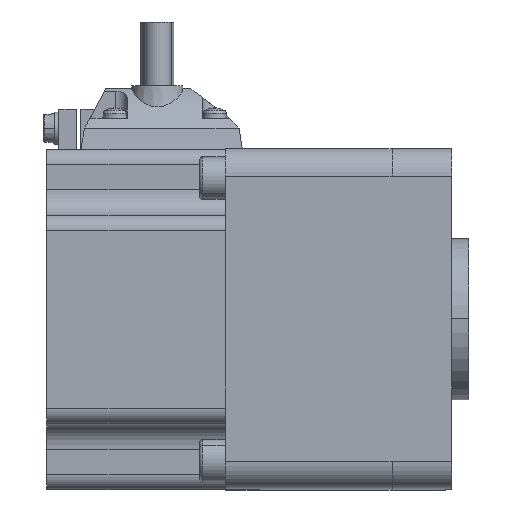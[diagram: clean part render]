
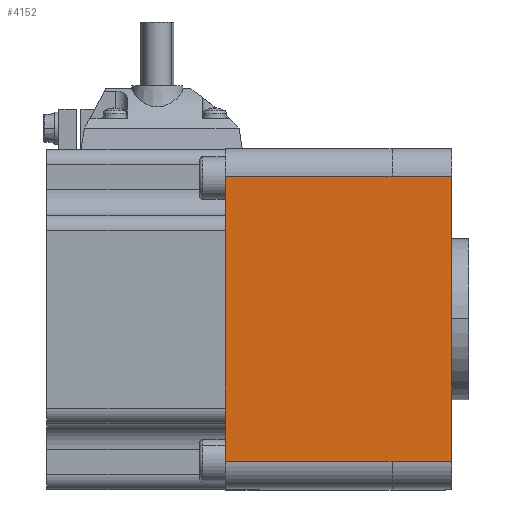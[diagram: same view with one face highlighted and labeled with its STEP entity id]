
A CAD part, top view. The second image highlights one B-rep face of the part: STEP entity #4152.
In plain terms, the highlighted planar face has unit normal (0, 0, 1).
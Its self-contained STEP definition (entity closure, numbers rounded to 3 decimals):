
#1537=CARTESIAN_POINT('POINT191033',(-18.,33.5,40.));
#1538=VERTEX_POINT('VERTEX191033',#1537);
#1539=CARTESIAN_POINT('POINT191034',(-4.,33.5,40.));
#1540=VERTEX_POINT('VERTEX191034',#1539);
#1541=CARTESIAN_POINT('POS322294',(-18.,33.5,40.));
#1542=DIRECTION('DIR465751',(1.,0.,0.));
#1543=VECTOR('VEC178837',#1542,1.);
#1544=LINE('STRAIGHT178837',#1541,#1543);
#1545=EDGE_CURVE('EDGE296111',#1538,#1540,#1544,.T.);
#1578=CARTESIAN_POINT('POINT191035',(-4.,-33.5,40.));
#1579=VERTEX_POINT('VERTEX191035',#1578);
#1580=CARTESIAN_POINT('POS322298',(-4.,-33.5,40.));
#1581=DIRECTION('DIR465758',(0.,1.,0.));
#1582=VECTOR('VEC178838',#1581,1.);
#1583=LINE('STRAIGHT178838',#1580,#1582);
#1584=EDGE_CURVE('EDGE296114',#1579,#1540,#1583,.T.);
#1682=CARTESIAN_POINT('POINT191048',(-18.,-33.5,40.));
#1683=VERTEX_POINT('VERTEX191048',#1682);
#1684=CARTESIAN_POINT('POS322305',(-18.,-33.5,40.));
#1685=DIRECTION('DIR465771',(1.,0.,0.));
#1686=VECTOR('VEC178839',#1685,1.);
#1687=LINE('STRAIGHT178839',#1684,#1686);
#1688=EDGE_CURVE('EDGE296128',#1683,#1579,#1687,.T.);
#1705=CARTESIAN_POINT('POINT191049',(-18.,-33.495,40.));
#1706=VERTEX_POINT('VERTEX191049',#1705);
#1758=CARTESIAN_POINT('POINT191056',(-18.,33.495,40.));
#1759=VERTEX_POINT('VERTEX191056',#1758);
#1767=CARTESIAN_POINT('POS322315',(-18.,-33.5,40.));
#1768=DIRECTION('DIR465787',(0.,1.,0.));
#1769=VECTOR('VEC178843',#1768,1.);
#1770=LINE('STRAIGHT178843',#1767,#1769);
#1771=EDGE_CURVE('EDGE296137',#1759,#1538,#1770,.T.);
#1780=EDGE_CURVE('EDGE296138',#1683,#1706,#1770,.T.);
#3365=CARTESIAN_POINT('POINT191143',(-18.01,33.495,40.));
#3366=VERTEX_POINT('VERTEX191143',#3365);
#3376=CARTESIAN_POINT('POS322424',(-18.,33.495,40.));
#3377=DIRECTION('DIR465938',(-1.,0.,0.));
#3378=VECTOR('VEC178910',#3377,1.);
#3379=LINE('STRAIGHT178910',#3376,#3378);
#3380=EDGE_CURVE('EDGE296278',#1759,#3366,#3379,.T.);
#3399=CARTESIAN_POINT('POINT191146',(-18.01,-33.495,40.))
   ;
#3400=VERTEX_POINT('VERTEX191146',#3399);
#3415=CARTESIAN_POINT('POS322429',(-18.,-33.495,40.));
#3416=DIRECTION('DIR465945',(-1.,0.,0.));
#3417=VECTOR('VEC178913',#3416,1.);
#3418=LINE('STRAIGHT178913',#3415,#3417);
#3419=EDGE_CURVE('EDGE296282',#1706,#3400,#3418,.T.);
#4104=CARTESIAN_POINT('POINT191175',(-18.01,33.5,40.));
#4105=VERTEX_POINT('VERTEX191175',#4104);
#4106=CARTESIAN_POINT('POS322509',(-18.01,33.5,40.));
#4107=DIRECTION('DIR466069',(0.,-1.,0.));
#4108=VECTOR('VEC178949',#4107,1.);
#4109=LINE('STRAIGHT178949',#4106,#4108);
#4110=EDGE_CURVE('EDGE296340',#4105,#3366,#4109,.T.);
#4111=ORIENTED_EDGE('COEDGE592693',*,*,#4110,.F.);
#4112=CARTESIAN_POINT('POINT191176',(-57.2,33.5,40.));
#4113=VERTEX_POINT('VERTEX191176',#4112);
#4114=CARTESIAN_POINT('POS322510',(-18.01,33.5,40.));
#4115=DIRECTION('DIR466070',(-1.,0.,0.));
#4116=VECTOR('VEC178950',#4115,1.);
#4117=LINE('STRAIGHT178950',#4114,#4116);
#4118=EDGE_CURVE('EDGE296341',#4105,#4113,#4117,.T.);
#4119=ORIENTED_EDGE('COEDGE592694',*,*,#4118,.T.);
#4120=CARTESIAN_POINT('POINT191177',(-57.2,-33.5,40.));
#4121=VERTEX_POINT('VERTEX191177',#4120);
#4122=CARTESIAN_POINT('POS322511',(-57.2,33.5,40.));
#4123=DIRECTION('DIR466071',(0.,-1.,0.));
#4124=VECTOR('VEC178951',#4123,1.);
#4125=LINE('STRAIGHT178951',#4122,#4124);
#4126=EDGE_CURVE('EDGE296342',#4113,#4121,#4125,.T.);
#4127=ORIENTED_EDGE('COEDGE592695',*,*,#4126,.T.);
#4128=CARTESIAN_POINT('POINT191178',(-18.01,-33.5,40.));
#4129=VERTEX_POINT('VERTEX191178',#4128);
#4130=CARTESIAN_POINT('POS322512',(-18.01,-33.5,40.));
#4131=DIRECTION('DIR466072',(-1.,0.,0.));
#4132=VECTOR('VEC178952',#4131,1.);
#4133=LINE('STRAIGHT178952',#4130,#4132);
#4134=EDGE_CURVE('EDGE296343',#4129,#4121,#4133,.T.);
#4135=ORIENTED_EDGE('COEDGE592696',*,*,#4134,.F.);
#4136=EDGE_CURVE('EDGE296344',#3400,#4129,#4109,.T.);
#4137=ORIENTED_EDGE('COEDGE592697',*,*,#4136,.F.);
#4138=ORIENTED_EDGE('COEDGE592698',*,*,#3419,.F.);
#4139=ORIENTED_EDGE('COEDGE592699',*,*,#1780,.F.);
#4140=ORIENTED_EDGE('COEDGE592700',*,*,#1688,.T.);
#4141=ORIENTED_EDGE('COEDGE592701',*,*,#1584,.T.);
#4142=ORIENTED_EDGE('COEDGE592702',*,*,#1545,.F.);
#4143=ORIENTED_EDGE('COEDGE592703',*,*,#1771,.F.);
#4144=ORIENTED_EDGE('COEDGE592704',*,*,#3380,.T.);
#4145=EDGE_LOOP('NONE',(#4111,#4119,#4127,#4135,#4137,#4138,#4139,#4140,
   #4141,#4142,#4143,#4144));
#4146=FACE_BOUND('LOOP1',#4145,.T.);
#4147=CARTESIAN_POINT('POS322513',(-18.01,33.5,40.));
#4148=DIRECTION('DIR466073',(0.,0.,1.));
#4149=DIRECTION('DIR466074',(1.,0.,0.));
#4150=AXIS2_PLACEMENT_3D('AXIS143561',#4147,#4148,#4149);
#4151=PLANE('PLANE61628',#4150);
#4152=ADVANCED_FACE('FACE114884',(#4146),#4151,.T.);
